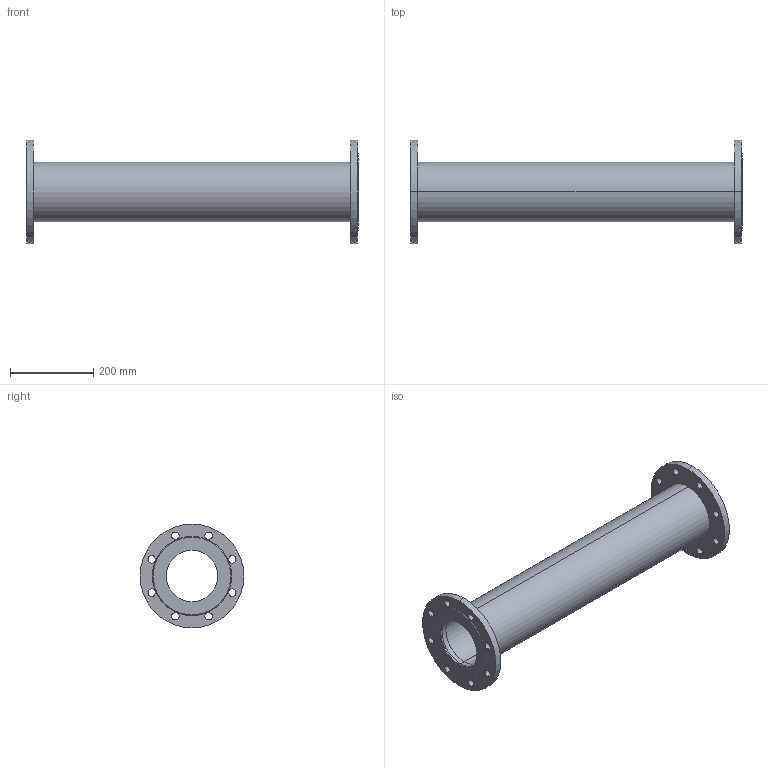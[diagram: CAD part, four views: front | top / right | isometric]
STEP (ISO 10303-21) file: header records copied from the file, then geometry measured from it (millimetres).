
FILE_DESCRIPTION(('STEP AP214'),'1');
FILE_NAME('U:/VDI-Daten/8500/8500_PN16_DN125_L800.STP','2012-06-12T15:11:50',(' '),(' '),'Spatial InterOp 3D',' ',' ');
FILE_SCHEMA(('automotive_design'));
Length unit declared in the file: millimetre
Products named in the file (5): 3D-Objekt
Bounding box: 800 x 250 x 250 mm (x, y, z)
Volume: 4406809.3 mm3; surface area: 936166.8 mm2
Topology: 5 solids, 5 shells, 62 faces, 156 edges, 104 vertices
Faces by surface type: cylinder 48, plane 10, cone 4
Entity records: 2621 total; most frequent: DIRECTION 394, CARTESIAN_POINT 327, ORIENTED_EDGE 312, AXIS2_PLACEMENT_3D 171, EDGE_CURVE 156, EDGE_LOOP 104, VERTEX_POINT 104, CIRCLE 104
